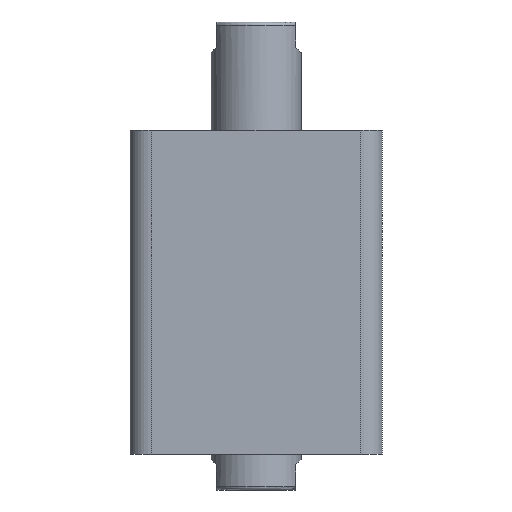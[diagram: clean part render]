
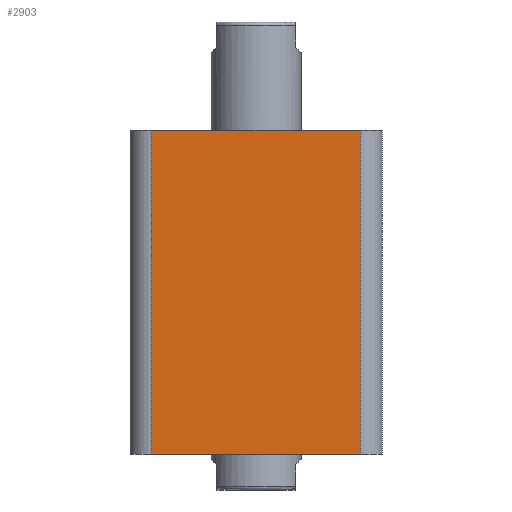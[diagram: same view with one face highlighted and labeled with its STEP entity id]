
A CAD part, front view. The second image highlights one B-rep face of the part: STEP entity #2903.
In plain terms, the highlighted planar face has unit normal (0, -1, 0).
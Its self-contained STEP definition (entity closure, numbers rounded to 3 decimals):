
#130 = ORIENTED_EDGE ( 'NONE', *, *, #1149, .F. ) ;
#131 = ORIENTED_EDGE ( 'NONE', *, *, #1150, .T. ) ;
#132 = ORIENTED_EDGE ( 'NONE', *, *, #1151, .T. ) ;
#133 = ORIENTED_EDGE ( 'NONE', *, *, #1152, .T. ) ;
#422 = CARTESIAN_POINT ( 'NONE',  ( -35., -35., 0. ) ) ;
#432 = CARTESIAN_POINT ( 'NONE',  ( -35., -35., 90. ) ) ;
#433 = DIRECTION ( 'NONE',  ( 1., 0., 0. ) ) ;
#434 = CARTESIAN_POINT ( 'NONE',  ( -29., -35., 90. ) ) ;
#435 = DIRECTION ( 'NONE',  ( 0., 0., -1. ) ) ;
#436 = DIRECTION ( 'NONE',  ( 1., 0., 0. ) ) ;
#437 = CARTESIAN_POINT ( 'NONE',  ( 29., -35., 90. ) ) ;
#438 = DIRECTION ( 'NONE',  ( 0., 0., 1. ) ) ;
#534 = CARTESIAN_POINT ( 'NONE',  ( -29., -35., 90. ) ) ;
#618 = CARTESIAN_POINT ( 'NONE',  ( 29., -35., 90. ) ) ;
#619 = CARTESIAN_POINT ( 'NONE',  ( -29., -35., 0. ) ) ;
#620 = CARTESIAN_POINT ( 'NONE',  ( 29., -35., 0. ) ) ;
#1149 = EDGE_CURVE ( 'NONE', #1449, #2805, #1596, .T. ) ;
#1150 = EDGE_CURVE ( 'NONE', #1449, #2806, #1598, .T. ) ;
#1151 = EDGE_CURVE ( 'NONE', #2806, #2807, #1590, .T. ) ;
#1152 = EDGE_CURVE ( 'NONE', #2807, #2805, #1602, .T. ) ;
#1432 = AXIS2_PLACEMENT_3D ( 'NONE', #2191, #2193, #2194 ) ;
#1449 = VERTEX_POINT ( 'NONE', #534 ) ;
#1590 = LINE ( 'NONE', #422, #1603 ) ;
#1596 = LINE ( 'NONE', #432, #1599 ) ;
#1598 = LINE ( 'NONE', #434, #1601 ) ;
#1599 = VECTOR ( 'NONE', #433, 1000. ) ;
#1601 = VECTOR ( 'NONE', #435, 1000. ) ;
#1602 = LINE ( 'NONE', #437, #1605 ) ;
#1603 = VECTOR ( 'NONE', #436, 1000. ) ;
#1605 = VECTOR ( 'NONE', #438, 1000. ) ;
#2191 = CARTESIAN_POINT ( 'NONE',  ( -35., -35., 90. ) ) ;
#2193 = DIRECTION ( 'NONE',  ( 0., 1., 0. ) ) ;
#2194 = DIRECTION ( 'NONE',  ( 0., 0., 1. ) ) ;
#2358 = FACE_OUTER_BOUND ( 'NONE', #3216, .T. ) ;
#2805 = VERTEX_POINT ( 'NONE', #618 ) ;
#2806 = VERTEX_POINT ( 'NONE', #619 ) ;
#2807 = VERTEX_POINT ( 'NONE', #620 ) ;
#2903 = ADVANCED_FACE ( 'NONE', ( #2358 ), #3173, .F. ) ;
#3173 = PLANE ( 'NONE',  #1432 ) ;
#3216 = EDGE_LOOP ( 'NONE', ( #130, #131, #132, #133 ) ) ;
